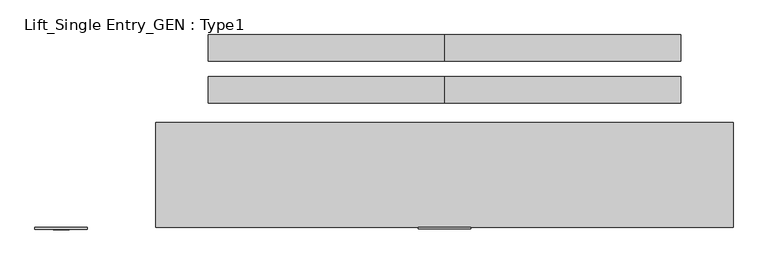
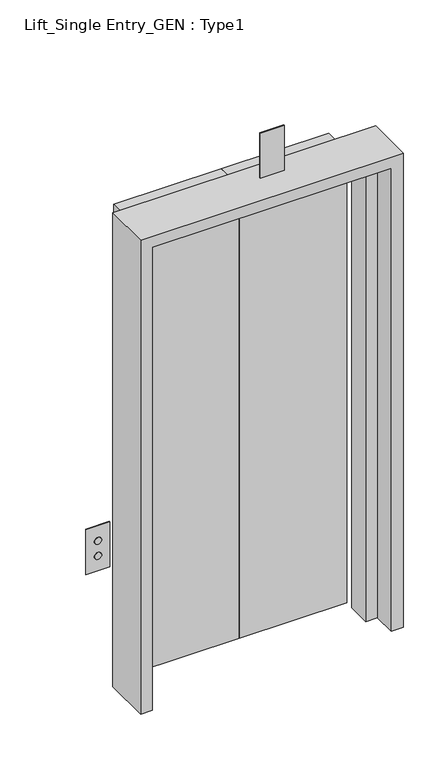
"""IFC4 building model written with IfcOpenShell, lengths in millimetres: proxy geometry, Lift_Single Entry_GEN : Type1."""

from ifc_helpers import new_model, si_unit, point, frame, frame_2d, origin, origin_with_axes, place, context, project, spatial, polyline, circle_curve, trimmed, segment, composite_curve, outline, extrude, faceted_brep, source, transform, mapped, element, save


def lift_single_entry_gen_type1_a187540e(model_context):
    return source(origin(), model_context, "Body", "SolidModel", [
        extrude(outline(polyline([(253.9142846, -100.0), (253.9142846, -103.0), (153.9142846, -103.0), (153.9142846, -100.0), (253.9142846, -100.0)])), frame((0.0, 0.0, 2200.0), z_axis=(0.0, 0.0, 1.0), x_axis=(1.0, 0.0, 0.0)), (0.0, 0.0, 1.0), 200.0),
        extrude(outline(composite_curve([segment(trimmed(circle_curve(frame_2d((833.3333333, -526.0857154)), 15.0), [point((833.3333333, -541.0857154))], [point((833.3333333, -511.0857154))], False, "CARTESIAN"), True, "CONTINUOUS"), segment(trimmed(circle_curve(frame_2d((833.3333333, -526.0857154)), 15.0), [point((833.3333333, -511.0857154))], [point((833.3333333, -541.0857154))], False, "CARTESIAN"), True, "CONTINUOUS")], self_intersect=False)), frame((0.0, -104.0, 0.0), z_axis=(0.0, 1.0, 0.0), x_axis=(0.0, 0.0, 1.0)), (0.0, 0.0, 1.0), 4.0),
        extrude(outline(composite_curve([segment(trimmed(circle_curve(frame_2d((766.6666667, -526.0857154)), 15.0), [point((766.6666667, -541.0857154))], [point((766.6666667, -511.0857154))], False, "CARTESIAN"), True, "CONTINUOUS"), segment(trimmed(circle_curve(frame_2d((766.6666667, -526.0857154)), 15.0), [point((766.6666667, -511.0857154))], [point((766.6666667, -541.0857154))], False, "CARTESIAN"), True, "CONTINUOUS")], self_intersect=False)), frame((0.0, -104.0, 0.0), z_axis=(0.0, 1.0, 0.0), x_axis=(0.0, 0.0, 1.0)), (0.0, 0.0, 1.0), 4.0),
        extrude(outline(polyline([(900.0, -576.0857154), (700.0, -576.0857154), (700.0, -476.0857154), (900.0, -476.0857154), (900.0, -576.0857154)]), holes=[composite_curve([segment(trimmed(circle_curve(frame_2d((833.3333333, -526.0857154)), 15.0), [point((833.3333333, -541.0857154))], [point((833.3333333, -511.0857154))], True, "CARTESIAN"), True, "CONTINUOUS"), segment(trimmed(circle_curve(frame_2d((833.3333333, -526.0857154)), 15.0), [point((833.3333333, -511.0857154))], [point((833.3333333, -541.0857154))], True, "CARTESIAN"), True, "CONTINUOUS")], self_intersect=False), composite_curve([segment(trimmed(circle_curve(frame_2d((766.6666667, -526.0857154)), 15.0), [point((766.6666667, -541.0857154))], [point((766.6666667, -511.0857154))], True, "CARTESIAN"), True, "CONTINUOUS"), segment(trimmed(circle_curve(frame_2d((766.6666667, -526.0857154)), 15.0), [point((766.6666667, -511.0857154))], [point((766.6666667, -541.0857154))], True, "CARTESIAN"), True, "CONTINUOUS")], self_intersect=False)]), frame((0.0, -103.0, 0.0), z_axis=(0.0, 1.0, 0.0), x_axis=(0.0, 0.0, 1.0)), (0.0, 0.0, 1.0), 3.0),
        extrude(outline(polyline([(-246.0857154, 217.5), (-246.0857154, 267.5), (203.9142846, 267.5), (203.9142846, 217.5), (-246.0857154, 217.5)])), origin_with_axes(), (0.0, 0.0, 1.0), 2000.0),
        extrude(outline(polyline([(653.9142846, 217.5), (203.9142846, 217.5), (203.9142846, 267.5), (653.9142846, 267.5), (653.9142846, 217.5)])), origin_with_axes(), (0.0, 0.0, 1.0), 2000.0),
        extrude(outline(polyline([(-246.0857154, 137.5), (-246.0857154, 187.5), (203.9142846, 187.5), (203.9142846, 137.5), (-246.0857154, 137.5)])), origin_with_axes(), (0.0, 0.0, 1.0), 2000.0),
        extrude(outline(polyline([(653.9142846, 137.5), (203.9142846, 137.5), (203.9142846, 187.5), (653.9142846, 187.5), (653.9142846, 137.5)])), origin_with_axes(), (0.0, 0.0, 1.0), 2000.0),
        faceted_brep([(-346.0857154, 100.0, 0.0), (-246.0857154, 100.0, 0.0), (-246.0857154, 0.0, 0.0), (-296.0857154, 0.0, 0.0), (-296.0857154, -100.0, 0.0), (-346.0857154, -100.0, 0.0), (-346.0857154, -100.0, 2100.0), (-346.0857154, 100.0, 2100.0), (-296.0857154, -100.0, 2050.0), (703.9142846, -100.0, 2050.0), (703.9142846, -100.0, 0.0), (753.9142846, -100.0, 0.0), (753.9142846, -100.0, 2100.0), (-296.0857154, 0.0, 2050.0), (-246.0857154, 0.0, 2000.0), (653.9142846, 0.0, 2000.0), (653.9142846, 0.0, 0.0), (703.9142846, 0.0, 0.0), (703.9142846, 0.0, 2050.0), (-246.0857154, 100.0, 2000.0), (753.9142846, 100.0, 2100.0), (753.9142846, 100.0, 0.0), (653.9142846, 100.0, 0.0), (653.9142846, 100.0, 2000.0)], [[[0, 1, 2, 3, 4, 5]], [[5, 6, 7, 0]], [[4, 8, 9, 10, 11, 12, 6, 5]], [[3, 13, 8, 4]], [[2, 14, 15, 16, 17, 18, 13, 3]], [[1, 19, 14, 2]], [[0, 7, 20, 21, 22, 23, 19, 1]], [[6, 12, 20, 7]], [[13, 18, 9, 8]], [[19, 23, 15, 14]], [[21, 11, 10, 17, 16, 22]], [[12, 11, 21, 20]], [[18, 17, 10, 9]], [[23, 22, 16, 15]]]),
    ])


if __name__ == "__main__":
    model = new_model("IFC4")
    model_context = context("Model", 3, world=origin())
    ifc_project = project(units=[si_unit("LENGTHUNIT", "METRE", prefix="MILLI")], contexts=[model_context])
    site = spatial("IfcSite", under=ifc_project)
    building = spatial("IfcBuilding", under=site)
    placement = place(None, origin())
    lift_single_entry_gen_type1_shape = lift_single_entry_gen_type1_a187540e(model_context)
    element("IfcBuildingElementProxy", 1, Name="Lift_Single Entry_GEN : Type1", ObjectType="Lift_Single Entry_GEN : Type1", at=placement, inside=building, context=model_context, shape_type="MappedRepresentation", body=[
        mapped(lift_single_entry_gen_type1_shape, transform((0.0, 0.0, 0.0), x_axis=(1.0, 0.0, 0.0), y_axis=(0.0, 1.0, 0.0), z_axis=(0.0, 0.0, 1.0))),
    ])
    save(model, "model.ifc")
